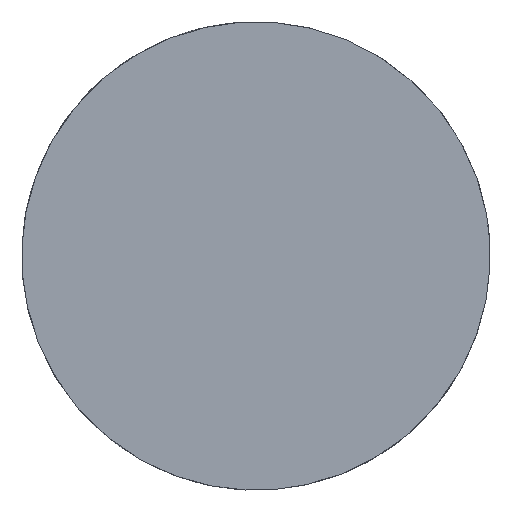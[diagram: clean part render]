
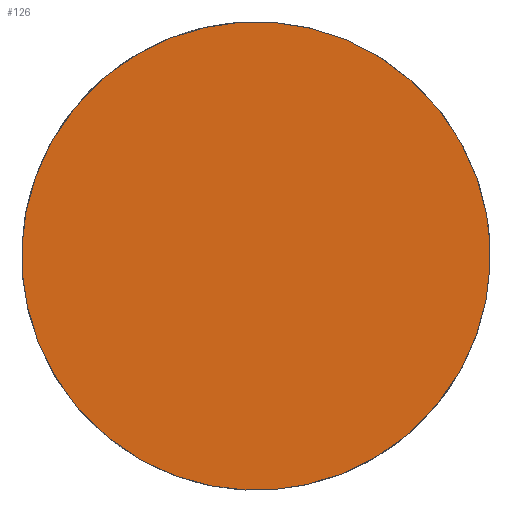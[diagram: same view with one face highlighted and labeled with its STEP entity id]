
A CAD part, left-side view. The second image highlights one B-rep face of the part: STEP entity #126.
In plain terms, the highlighted free-form (B-spline) face has degree [1, 1] with [2, 2] control points.
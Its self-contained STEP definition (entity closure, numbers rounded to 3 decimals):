
#126=ADVANCED_FACE('',(#247),#248,.T.);
#247=FACE_OUTER_BOUND('',#868,.T.);
#248=B_SPLINE_SURFACE_WITH_KNOTS('',1,1,((#869,#870),(#871,#872)),.UNSPECIFIED.,.F.,.F.,.F.,(2,2),(2,2),(0.0,63.5),(0.0,63.5),.UNSPECIFIED.);
#868=EDGE_LOOP('',(#1135,#1136,#1137));
#869=CARTESIAN_POINT('',(-69.,-31.75,-31.75));
#870=CARTESIAN_POINT('',(-69.,31.75,-31.75));
#871=CARTESIAN_POINT('',(-69.,-31.75,31.75));
#872=CARTESIAN_POINT('',(-69.,31.75,31.75));
#1135=ORIENTED_EDGE('',*,*,#1203,.F.);
#1136=ORIENTED_EDGE('',*,*,#1202,.F.);
#1137=ORIENTED_EDGE('',*,*,#1205,.F.);
#1202=EDGE_CURVE('',#1364,#1366,#1367,.T.);
#1203=EDGE_CURVE('',#1366,#1356,#1368,.T.);
#1205=EDGE_CURVE('',#1356,#1364,#1370,.T.);
#1356=VERTEX_POINT('',#1713);
#1364=VERTEX_POINT('',#1736);
#1366=VERTEX_POINT('',#1739);
#1367=(B_SPLINE_CURVE(2,(#1741,#1742,#1743),.UNSPECIFIED.,.F.,.F.)B_SPLINE_CURVE_WITH_KNOTS((3,3),(4.712,6.283),.UNSPECIFIED.)RATIONAL_B_SPLINE_CURVE((1.0,0.707,1.0))BOUNDED_CURVE()REPRESENTATION_ITEM('')GEOMETRIC_REPRESENTATION_ITEM()CURVE());
#1368=(B_SPLINE_CURVE(2,(#1751,#1752,#1753),.UNSPECIFIED.,.F.,.F.)B_SPLINE_CURVE_WITH_KNOTS((3,3),(0.,1.571),.UNSPECIFIED.)RATIONAL_B_SPLINE_CURVE((1.0,0.707,1.0))BOUNDED_CURVE()REPRESENTATION_ITEM('')GEOMETRIC_REPRESENTATION_ITEM()CURVE());
#1370=(B_SPLINE_CURVE(2,(#1762,#1763,#1764,#1765,#1766),.UNSPECIFIED.,.F.,.F.)B_SPLINE_CURVE_WITH_KNOTS((3,2,3),(1.571,3.142,4.712),.UNSPECIFIED.)RATIONAL_B_SPLINE_CURVE((1.0,0.707,1.0,0.707,1.0))BOUNDED_CURVE()REPRESENTATION_ITEM('')GEOMETRIC_REPRESENTATION_ITEM()CURVE());
#1713=CARTESIAN_POINT('',(-69.,31.718,1.428));
#1736=CARTESIAN_POINT('',(-69.,-31.718,-1.428));
#1739=CARTESIAN_POINT('',(-69.,1.428,-31.718));
#1741=CARTESIAN_POINT('',(-69.,-31.718,-1.428));
#1742=CARTESIAN_POINT('',(-69.,-30.29,-33.146));
#1743=CARTESIAN_POINT('',(-69.,1.428,-31.718));
#1751=CARTESIAN_POINT('',(-69.,1.428,-31.718));
#1752=CARTESIAN_POINT('',(-69.,33.146,-30.29));
#1753=CARTESIAN_POINT('',(-69.,31.718,1.428));
#1762=CARTESIAN_POINT('',(-69.,31.718,1.428));
#1763=CARTESIAN_POINT('',(-69.,30.29,33.146));
#1764=CARTESIAN_POINT('',(-69.,-1.428,31.718));
#1765=CARTESIAN_POINT('',(-69.,-33.146,30.29));
#1766=CARTESIAN_POINT('',(-69.,-31.718,-1.428));
